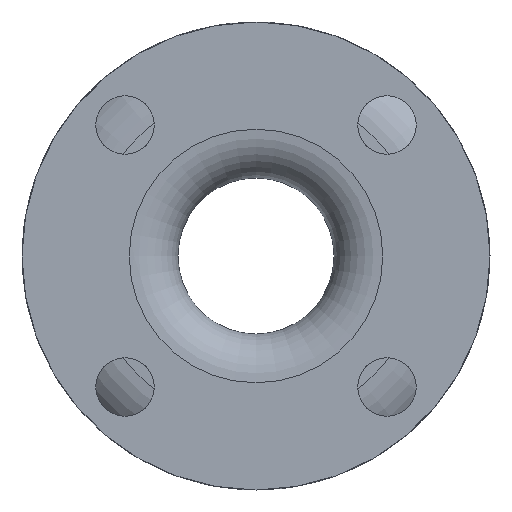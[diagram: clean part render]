
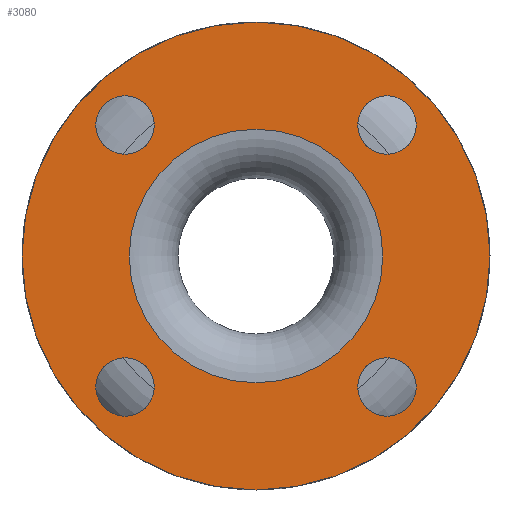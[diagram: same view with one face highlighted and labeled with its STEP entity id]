
A CAD part, left-side view. The second image highlights one B-rep face of the part: STEP entity #3080.
In plain terms, the highlighted planar face has unit normal (-1, 0, 0).
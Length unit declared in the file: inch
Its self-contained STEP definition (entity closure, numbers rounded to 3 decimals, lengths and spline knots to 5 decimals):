
#354=PLANE('',#3288);
#441=FACE_BOUND('',#725,.T.);
#442=FACE_BOUND('',#726,.T.);
#443=FACE_BOUND('',#727,.T.);
#444=FACE_BOUND('',#728,.T.);
#445=FACE_BOUND('',#729,.T.);
#531=FACE_OUTER_BOUND('',#724,.T.);
#724=EDGE_LOOP('',(#1962));
#725=EDGE_LOOP('',(#1963));
#726=EDGE_LOOP('',(#1964));
#727=EDGE_LOOP('',(#1965));
#728=EDGE_LOOP('',(#1966));
#729=EDGE_LOOP('',(#1967));
#971=CIRCLE('',#3263,0.375);
#973=CIRCLE('',#3266,0.375);
#975=CIRCLE('',#3269,0.375);
#977=CIRCLE('',#3272,0.375);
#985=CIRCLE('',#3287,1.625);
#986=CIRCLE('',#3289,3.);
#1217=VERTEX_POINT('',#4707);
#1219=VERTEX_POINT('',#4712);
#1221=VERTEX_POINT('',#4717);
#1223=VERTEX_POINT('',#4722);
#1231=VERTEX_POINT('',#4745);
#1232=VERTEX_POINT('',#4748);
#1519=EDGE_CURVE('',#1217,#1217,#971,.T.);
#1521=EDGE_CURVE('',#1219,#1219,#973,.T.);
#1523=EDGE_CURVE('',#1221,#1221,#975,.T.);
#1525=EDGE_CURVE('',#1223,#1223,#977,.T.);
#1533=EDGE_CURVE('',#1231,#1231,#985,.T.);
#1534=EDGE_CURVE('',#1232,#1232,#986,.T.);
#1962=ORIENTED_EDGE('',*,*,#1534,.F.);
#1963=ORIENTED_EDGE('',*,*,#1519,.T.);
#1964=ORIENTED_EDGE('',*,*,#1521,.T.);
#1965=ORIENTED_EDGE('',*,*,#1523,.T.);
#1966=ORIENTED_EDGE('',*,*,#1525,.T.);
#1967=ORIENTED_EDGE('',*,*,#1533,.T.);
#3080=ADVANCED_FACE('',(#531,#441,#442,#443,#444,#445),#354,.T.);
#3263=AXIS2_PLACEMENT_3D('',#4708,#3703,#3704);
#3266=AXIS2_PLACEMENT_3D('',#4713,#3709,#3710);
#3269=AXIS2_PLACEMENT_3D('',#4718,#3715,#3716);
#3272=AXIS2_PLACEMENT_3D('',#4723,#3721,#3722);
#3287=AXIS2_PLACEMENT_3D('',#4746,#3751,#3752);
#3288=AXIS2_PLACEMENT_3D('',#4747,#3753,#3754);
#3289=AXIS2_PLACEMENT_3D('',#4749,#3755,#3756);
#3703=DIRECTION('center_axis',(1.,0.,0.));
#3704=DIRECTION('ref_axis',(0.,-1.,0.));
#3709=DIRECTION('center_axis',(1.,0.,0.));
#3710=DIRECTION('ref_axis',(0.,0.,1.));
#3715=DIRECTION('center_axis',(1.,0.,0.));
#3716=DIRECTION('ref_axis',(0.,1.,0.));
#3721=DIRECTION('center_axis',(1.,0.,0.));
#3722=DIRECTION('ref_axis',(0.,0.,
-1.));
#3751=DIRECTION('center_axis',(1.,0.,0.));
#3752=DIRECTION('ref_axis',(0.,0.,
-1.));
#3753=DIRECTION('center_axis',(-1.,0.,0.));
#3754=DIRECTION('ref_axis',(0.,0.,1.));
#3755=DIRECTION('center_axis',(1.,0.,0.));
#3756=DIRECTION('ref_axis',(0.,0.,
-1.));
#4707=CARTESIAN_POINT('',(-3.,-1.30438,-1.67938));
#4708=CARTESIAN_POINT('Origin',(-3.,-1.67938,-1.67938));
#4712=CARTESIAN_POINT('',(-3.,-1.67938,1.30438));
#4713=CARTESIAN_POINT('Origin',(-3.,-1.67938,1.67938));
#4717=CARTESIAN_POINT('',(-3.,1.30438,1.67938));
#4718=CARTESIAN_POINT('Origin',(-3.,1.67938,1.67938));
#4722=CARTESIAN_POINT('',(-3.,1.67938,-1.30438));
#4723=CARTESIAN_POINT('Origin',(-3.,1.67938,-1.67938));
#4745=CARTESIAN_POINT('',(-3.,1.625,0.));
#4746=CARTESIAN_POINT('Origin',(-3.,0.,0.));
#4747=CARTESIAN_POINT('Origin',(-3.,3.,0.));
#4748=CARTESIAN_POINT('',(-3.,3.,0.));
#4749=CARTESIAN_POINT('Origin',(-3.,0.,0.));
